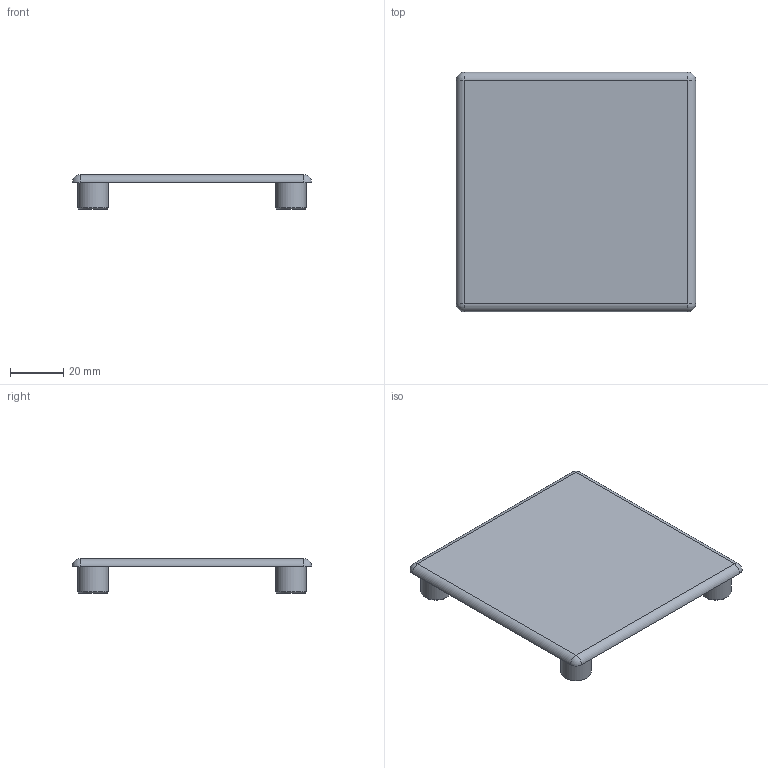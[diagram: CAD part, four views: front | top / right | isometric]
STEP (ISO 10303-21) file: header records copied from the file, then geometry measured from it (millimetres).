
FILE_DESCRIPTION (( 'STEP AP214' ), '1' );
FILE_NAME ('SL01009.step', '2024-12-03T16:30:33', ( '' ), ( '' ), 'SwSTEP 2.0', 'SolidWorks 2023', '' );
FILE_SCHEMA (( 'AUTOMOTIVE_DESIGN' ));
Length unit declared in the file: millimetre
Products named in the file (1): SL01009
Bounding box: 90 x 90 x 13 mm (x, y, z)
Volume: 24667.6 mm3; surface area: 19458.8 mm2
Topology: 1 solids, 1 shells, 32 faces, 63 edges, 38 vertices
Faces by surface type: cylinder 13, plane 11, sphere 4, cone 4
Full cylindrical faces by diameter (mm): 1 x1, 10 x4, 11.6 x4
Entity records: 727 total; most frequent: DIRECTION 142, CARTESIAN_POINT 109, ORIENTED_EDGE 84, AXIS2_PLACEMENT_3D 67, EDGE_LOOP 54, EDGE_CURVE 42, FACE_OUTER_BOUND 41, CIRCLE 34
